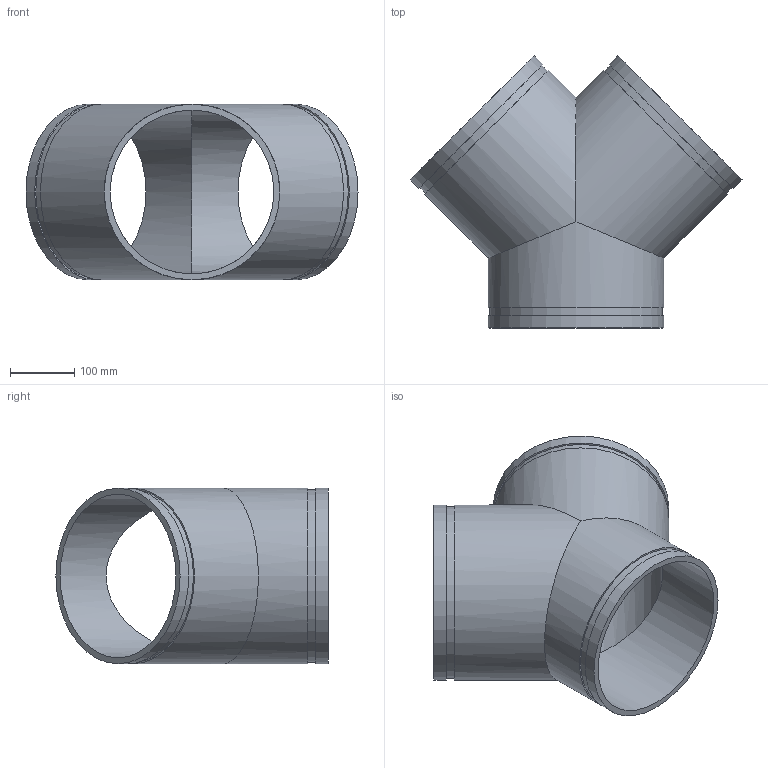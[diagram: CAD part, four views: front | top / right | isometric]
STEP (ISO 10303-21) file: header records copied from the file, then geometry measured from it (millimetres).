
FILE_DESCRIPTION(/* description */ ('This is default description.','CAx-IF Rec.Pracs.---Representation and Presentation of Product Manufacturing Information (PMI)---4.0---2014-10-13'),/* implementation_level */ '2;1');
FILE_NAME(/* name */ 'C:\Users\kkamble\AppData\Roaming\Autodesk\ApplicationPlugins\Back Up\Victaulic_IPS-Tee- Wye_ No 33 SWS (OGS)\Victaulic_IPS-Tee- Wye_ No 33 SWS (OGS)_10.stp',/* time_stamp */ '2020-09-16T22:08:31+06:00',/* author */ ('cgray'),/* organization */ ('Victaulic'),/* preprocessor_version */ 'ST-DEVELOPER v17.2',/* originating_system */ 'Autodesk Inventor 2019',/* authorisation */ '');
FILE_SCHEMA (('AP242_MANAGED_MODEL_BASED_3D_ENGINEERING_MIM_LF { 1 0 10303 442 1 1 4 }'));
Length unit declared in the file: inch
Products named in the file (1): 33 SWS-10.0
Bounding box: 516.36 x 423.28 x 273.05 mm (x, y, z)
Volume: 3523675 mm3; surface area: 811284.9 mm2
Topology: 1 solids, 1 shells, 21 faces, 48 edges, 34 vertices
Faces by surface type: cylinder 12, plane 9
Full cylindrical faces by diameter (mm): 254.508 x3, 268.275 x3, 273.05 x6
Entity records: 787 total; most frequent: DIRECTION 154, CARTESIAN_POINT 121, ORIENTED_EDGE 96, AXIS2_PLACEMENT_3D 71, EDGE_CURVE 48, VERTEX_POINT 34, EDGE_LOOP 30, CIRCLE 26
